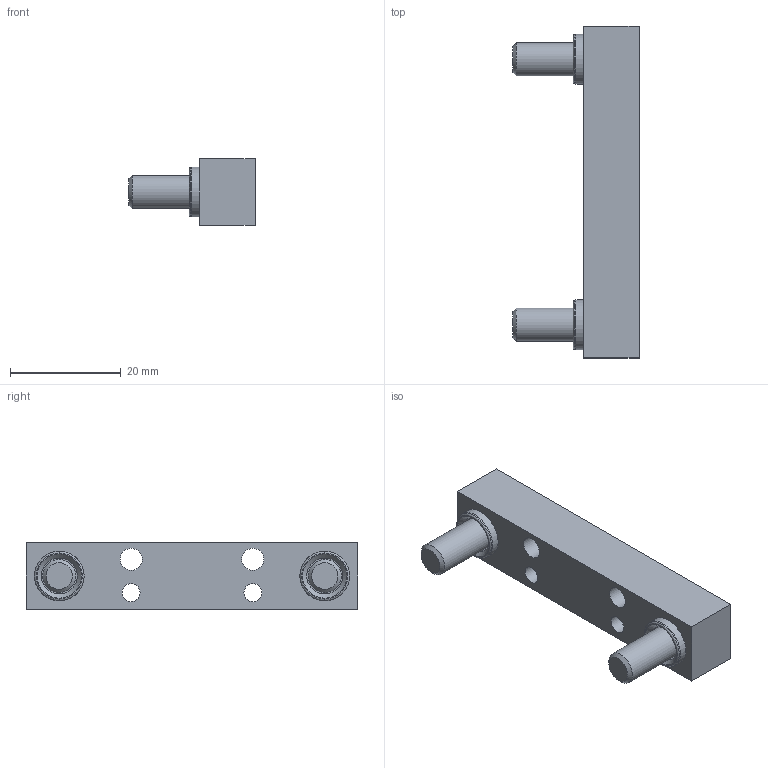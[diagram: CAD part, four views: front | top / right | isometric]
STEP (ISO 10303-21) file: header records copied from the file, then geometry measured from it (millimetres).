
FILE_DESCRIPTION((''),'2;1');
FILE_NAME('C:\Test\stp\4000063.stp','2006-04-11T14:35:58',('is'),(''),'Autodesk Inventor 10','Autodesk Inventor 10','');
FILE_SCHEMA(('AUTOMOTIVE_DESIGN { 1 0 10303 214 1 1 1 1 }'));
Length unit declared in the file: millimetre
Products named in the file (1): 4000063
Bounding box: 22.8 x 60 x 12 mm (x, y, z)
Volume: 7032.2 mm3; surface area: 5215.4 mm2
Topology: 1 solids, 3 shells, 68 faces, 146 edges, 94 vertices
Faces by surface type: plane 26, bspline 20, cylinder 8, cone 8, torus 6
Full cylindrical faces by diameter (mm): 4 x2, 6 x2, 9 x2, 10 x2
Entity records: 1785 total; most frequent: CARTESIAN_POINT 533, DIRECTION 238, ORIENTED_EDGE 200, EDGE_LOOP 126, AXIS2_PLACEMENT_3D 101, EDGE_CURVE 100, VERTEX_POINT 84, FACE_OUTER_BOUND 68
